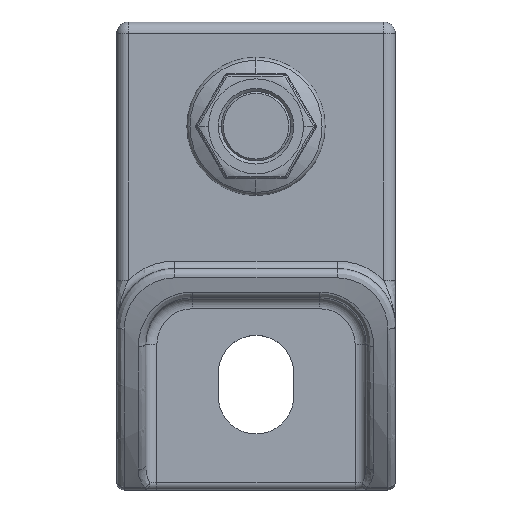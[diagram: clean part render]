
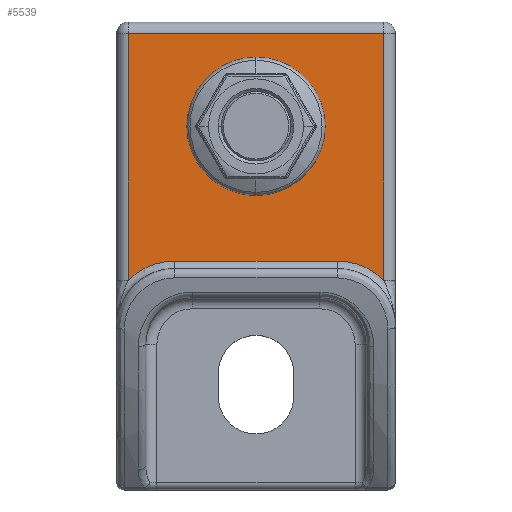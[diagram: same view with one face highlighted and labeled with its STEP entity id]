
A CAD part, top view. The second image highlights one B-rep face of the part: STEP entity #5539.
In plain terms, the highlighted planar face has unit normal (0, 0, 1).
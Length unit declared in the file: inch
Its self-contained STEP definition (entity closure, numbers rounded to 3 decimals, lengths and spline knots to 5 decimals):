
#1453=DIRECTION('',(0.,1.,0.));
#1454=VECTOR('',#1453,1.32873);
#1455=CARTESIAN_POINT('',(0.6875,-0.13123,
0.5));
#1456=LINE('',#1455,#1454);
#1460=CARTESIAN_POINT('',(0.4375,-0.38063,0.5));
#1461=DIRECTION('',(0.,0.,-1.));
#1462=DIRECTION('',(0.,1.,0.));
#1463=AXIS2_PLACEMENT_3D('',#1460,#1461,#1462);
#1468=DIRECTION('',(1.,0.,0.));
#1469=VECTOR('',#1468,0.875);
#1470=CARTESIAN_POINT('',(-0.4375,-0.0275,0.5));
#1471=LINE('',#1470,#1469);
#1475=CARTESIAN_POINT('',(-0.4375,-0.38063,0.5));
#1476=DIRECTION('',(0.,0.,-1.));
#1477=DIRECTION('',(-0.708,0.706,0.));
#1478=AXIS2_PLACEMENT_3D('',#1475,#1476,#1477);
#1483=DIRECTION('',(0.,-1.,0.));
#1484=VECTOR('',#1483,1.32873);
#1485=CARTESIAN_POINT('',(-0.6875,1.1975,0.5));
#1486=LINE('',#1485,#1484);
#1490=DIRECTION('',(1.,0.,0.));
#1491=VECTOR('',#1490,1.375);
#1492=CARTESIAN_POINT('',(-0.6875,1.1975,0.5));
#1493=LINE('',#1492,#1491);
#1497=DIRECTION('',(0.866,-0.5,0.));
#1498=VECTOR('',#1497,0.02777);
#1499=CARTESIAN_POINT('',(0.13493,0.58496,0.5));
#1500=LINE('',#1499,#1498);
#1504=DIRECTION('',(-0.866,0.5,0.));
#1505=VECTOR('',#1504,0.02777);
#1506=CARTESIAN_POINT('',(0.18898,0.62303,0.5));
#1507=LINE('',#1506,#1505);
#1511=DIRECTION('',(0.,1.,0.));
#1512=VECTOR('',#1511,0.02777);
#1513=CARTESIAN_POINT('',(0.03,0.87063,0.5));
#1514=LINE('',#1513,#1512);
#1518=DIRECTION('',(0.,-1.,0.));
#1519=VECTOR('',#1518,0.02777);
#1520=CARTESIAN_POINT('',(-0.03,0.8984,0.5));
#1521=LINE('',#1520,#1519);
#1525=DIRECTION('',(-0.866,-0.5,0.));
#1526=VECTOR('',#1525,0.02777);
#1527=CARTESIAN_POINT('',(-0.16493,0.63692,0.5));
#1528=LINE('',#1527,#1526);
#1532=DIRECTION('',(0.866,0.5,0.));
#1533=VECTOR('',#1532,0.02777);
#1534=CARTESIAN_POINT('',(-0.15898,0.57107,0.5));
#1535=LINE('',#1534,#1533);
#1627=CARTESIAN_POINT('',(0.,0.6975,0.5));
#1628=DIRECTION('',(0.,0.,1.));
#1629=DIRECTION('',(-1.,0.,0.));
#1630=AXIS2_PLACEMENT_3D('',#1627,#1628,#1629);
#1650=CARTESIAN_POINT('',(0.,0.6975,0.5));
#1651=DIRECTION('',(0.,0.,1.));
#1652=DIRECTION('',(0.93,-0.367,0.));
#1653=AXIS2_PLACEMENT_3D('',#1650,#1651,#1652);
#1680=CARTESIAN_POINT('',(0.,0.6975,0.5));
#1681=DIRECTION('',(0.,0.,1.));
#1682=DIRECTION('',(-0.783,-0.622,0.));
#1683=AXIS2_PLACEMENT_3D('',#1680,#1681,#1682);
#1786=DIRECTION('',(-0.5,-0.866,0.));
#1787=VECTOR('',#1786,0.06);
#1788=CARTESIAN_POINT('',(0.16493,0.63692,0.5));
#1789=LINE('',#1788,#1787);
#1828=DIRECTION('',(-0.5,0.866,0.));
#1829=VECTOR('',#1828,0.06);
#1830=CARTESIAN_POINT('',(-0.13493,0.58496,0.5));
#1831=LINE('',#1830,#1829);
#1870=DIRECTION('',(1.,0.,0.));
#1871=VECTOR('',#1870,0.06);
#1872=CARTESIAN_POINT('',(-0.03,0.87063,0.5));
#1873=LINE('',#1872,#1871);
#1899=CARTESIAN_POINT('',(0.,0.6975,0.5));
#1900=DIRECTION('',(0.,0.,1.));
#1901=DIRECTION('',(1.,0.,0.));
#1902=AXIS2_PLACEMENT_3D('',#1899,#1900,#1901);
#1922=CARTESIAN_POINT('',(0.,0.6975,0.5));
#1923=DIRECTION('',(0.,0.,1.));
#1924=DIRECTION('',(-0.148,0.989,0.));
#1925=AXIS2_PLACEMENT_3D('',#1922,#1923,#1924);
#3033=CARTESIAN_POINT('',(0.6875,-0.13123,
0.5));
#3034=CARTESIAN_POINT('',(0.6875,1.1975,0.5));
#3035=VERTEX_POINT('',#3033);
#3036=VERTEX_POINT('',#3034);
#3045=CARTESIAN_POINT('',(-0.6875,1.1975,0.5));
#3046=VERTEX_POINT('',#3045);
#3051=CARTESIAN_POINT('',(-0.6875,-0.13123,
0.5));
#3052=VERTEX_POINT('',#3051);
#3082=CARTESIAN_POINT('',(-0.4375,-0.0275,0.5));
#3083=VERTEX_POINT('',#3082);
#3084=CARTESIAN_POINT('',(0.4375,-0.0275,0.5));
#3085=VERTEX_POINT('',#3084);
#3116=CARTESIAN_POINT('',(0.20313,0.6975,0.5));
#3117=VERTEX_POINT('',#3116);
#3118=CARTESIAN_POINT('',(-0.20313,0.6975,0.5));
#3119=VERTEX_POINT('',#3118);
#3124=CARTESIAN_POINT('',(-0.03,0.8984,0.5));
#3125=VERTEX_POINT('',#3124);
#3126=CARTESIAN_POINT('',(0.03,0.8984,0.5));
#3127=VERTEX_POINT('',#3126);
#3136=CARTESIAN_POINT('',(-0.15898,0.57107,0.5));
#3137=VERTEX_POINT('',#3136);
#3138=CARTESIAN_POINT('',(-0.18898,0.62303,0.5));
#3139=VERTEX_POINT('',#3138);
#3140=CARTESIAN_POINT('',(0.18898,0.62303,0.5));
#3141=VERTEX_POINT('',#3140);
#3142=CARTESIAN_POINT('',(0.15898,0.57107,0.5));
#3143=VERTEX_POINT('',#3142);
#3144=CARTESIAN_POINT('',(-0.03,0.87063,0.5));
#3145=VERTEX_POINT('',#3144);
#3146=CARTESIAN_POINT('',(0.03,0.87063,0.5));
#3147=VERTEX_POINT('',#3146);
#3148=CARTESIAN_POINT('',(-0.13493,0.58496,0.5));
#3149=VERTEX_POINT('',#3148);
#3150=CARTESIAN_POINT('',(-0.16493,0.63692,0.5));
#3151=VERTEX_POINT('',#3150);
#3152=CARTESIAN_POINT('',(0.16493,0.63692,0.5));
#3153=VERTEX_POINT('',#3152);
#3154=CARTESIAN_POINT('',(0.13493,0.58496,0.5));
#3155=VERTEX_POINT('',#3154);
#5494=CARTESIAN_POINT('',(0.75,-0.06813,0.5));
#5495=DIRECTION('',(0.,0.,-1.));
#5496=DIRECTION('',(0.,1.,0.));
#5497=AXIS2_PLACEMENT_3D('',#5494,#5495,#5496);
#5498=PLANE('',#5497);
#5499=ORIENTED_EDGE('',*,*,#5478,.F.);
#5501=ORIENTED_EDGE('',*,*,#5500,.F.);
#5503=ORIENTED_EDGE('',*,*,#5502,.F.);
#5504=ORIENTED_EDGE('',*,*,#5247,.F.);
#5505=ORIENTED_EDGE('',*,*,#5401,.F.);
#5506=ORIENTED_EDGE('',*,*,#5441,.T.);
#5507=EDGE_LOOP('',(#5499,#5501,#5503,#5504,#5505,#5506));
#5508=FACE_OUTER_BOUND('',#5507,.F.);
#5510=ORIENTED_EDGE('',*,*,#5509,.T.);
#5512=ORIENTED_EDGE('',*,*,#5511,.F.);
#5514=ORIENTED_EDGE('',*,*,#5513,.F.);
#5516=ORIENTED_EDGE('',*,*,#5515,.F.);
#5518=ORIENTED_EDGE('',*,*,#5517,.T.);
#5520=ORIENTED_EDGE('',*,*,#5519,.T.);
#5522=ORIENTED_EDGE('',*,*,#5521,.F.);
#5524=ORIENTED_EDGE('',*,*,#5523,.F.);
#5526=ORIENTED_EDGE('',*,*,#5525,.F.);
#5528=ORIENTED_EDGE('',*,*,#5527,.T.);
#5530=ORIENTED_EDGE('',*,*,#5529,.T.);
#5532=ORIENTED_EDGE('',*,*,#5531,.F.);
#5534=ORIENTED_EDGE('',*,*,#5533,.F.);
#5536=ORIENTED_EDGE('',*,*,#5535,.F.);
#5537=EDGE_LOOP('',(#5510,#5512,#5514,#5516,#5518,#5520,#5522,#5524,#5526,#5528,
#5530,#5532,#5534,#5536));
#5538=FACE_BOUND('',#5537,.F.);
#1464=CIRCLE('',#1463,0.35313);
#1479=CIRCLE('',#1478,0.35313);
#1631=CIRCLE('',#1630,0.20313);
#1654=CIRCLE('',#1653,0.20313);
#1684=CIRCLE('',#1683,0.20313);
#1903=CIRCLE('',#1902,0.20313);
#1926=CIRCLE('',#1925,0.20313);
#5247=EDGE_CURVE('',#3052,#3083,#1479,.T.);
#5401=EDGE_CURVE('',#3046,#3052,#1486,.T.);
#5441=EDGE_CURVE('',#3046,#3036,#1493,.T.);
#5478=EDGE_CURVE('',#3035,#3036,#1456,.T.);
#5500=EDGE_CURVE('',#3085,#3035,#1464,.T.);
#5502=EDGE_CURVE('',#3083,#3085,#1471,.T.);
#5509=EDGE_CURVE('',#3137,#3143,#1684,.T.);
#5511=EDGE_CURVE('',#3155,#3143,#1500,.T.);
#5513=EDGE_CURVE('',#3153,#3155,#1789,.T.);
#5515=EDGE_CURVE('',#3141,#3153,#1507,.T.);
#5517=EDGE_CURVE('',#3141,#3117,#1654,.T.);
#5519=EDGE_CURVE('',#3117,#3127,#1903,.T.);
#5521=EDGE_CURVE('',#3147,#3127,#1514,.T.);
#5523=EDGE_CURVE('',#3145,#3147,#1873,.T.);
#5525=EDGE_CURVE('',#3125,#3145,#1521,.T.);
#5527=EDGE_CURVE('',#3125,#3119,#1926,.T.);
#5529=EDGE_CURVE('',#3119,#3139,#1631,.T.);
#5531=EDGE_CURVE('',#3151,#3139,#1528,.T.);
#5533=EDGE_CURVE('',#3149,#3151,#1831,.T.);
#5535=EDGE_CURVE('',#3137,#3149,#1535,.T.);
#5539=ADVANCED_FACE('',(#5508,#5538),#5498,.F.);
